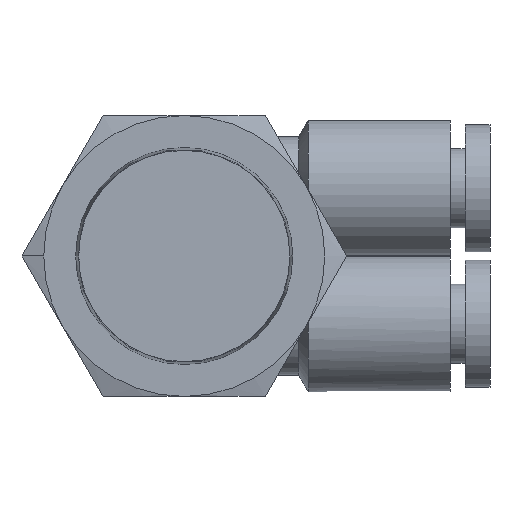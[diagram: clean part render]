
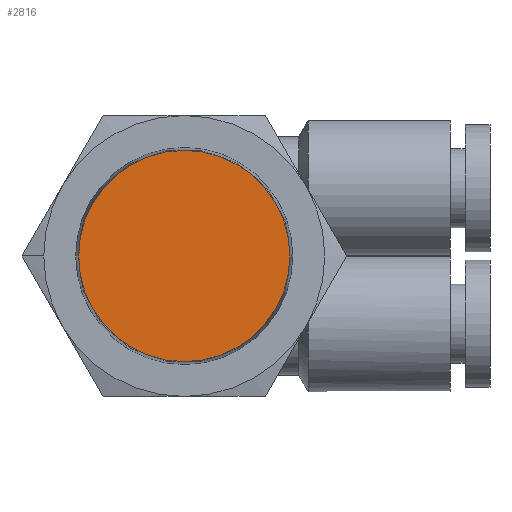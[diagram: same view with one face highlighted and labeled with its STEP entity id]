
A CAD part, front view. The second image highlights one B-rep face of the part: STEP entity #2816.
In plain terms, the highlighted planar face has unit normal (0, -1, 0).
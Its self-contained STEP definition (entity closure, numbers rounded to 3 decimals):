
#159 = DIRECTION ( 'NONE',  ( 1., 0., 0. ) ) ;
#214 = AXIS2_PLACEMENT_3D ( 'NONE', #1536, #3828, #159 ) ;
#606 = ORIENTED_EDGE ( 'NONE', *, *, #1869, .T. ) ;
#848 = CIRCLE ( 'NONE', #214, 6.391 ) ;
#935 = CARTESIAN_POINT ( 'NONE',  ( 6.391, -7.6, 0. ) ) ;
#1530 = VERTEX_POINT ( 'NONE', #3801 ) ;
#1536 = CARTESIAN_POINT ( 'NONE',  ( 0., -7.6, 0. ) ) ;
#1869 = EDGE_CURVE ( 'NONE', #1530, #4276, #848, .T. ) ;
#2279 = DIRECTION ( 'NONE',  ( 0., 1., 0. ) ) ;
#2353 = EDGE_LOOP ( 'NONE', ( #606, #3997 ) ) ;
#2634 = DIRECTION ( 'NONE',  ( 1., 0., 0. ) ) ;
#2653 = PLANE ( 'NONE',  #2745 ) ;
#2745 = AXIS2_PLACEMENT_3D ( 'NONE', #935, #2279, #2634 ) ;
#2753 = CIRCLE ( 'NONE', #2963, 6.391 ) ;
#2816 = ADVANCED_FACE ( 'NONE', ( #3944 ), #2653, .F. ) ;
#2963 = AXIS2_PLACEMENT_3D ( 'NONE', #3542, #3231, #4263 ) ;
#3231 = DIRECTION ( 'NONE',  ( 0., -1., 0. ) ) ;
#3432 = CARTESIAN_POINT ( 'NONE',  ( 6.391, -7.6, 0. ) ) ;
#3542 = CARTESIAN_POINT ( 'NONE',  ( 0., -7.6, 0. ) ) ;
#3801 = CARTESIAN_POINT ( 'NONE',  ( -6.391, -7.6, 0. ) ) ;
#3828 = DIRECTION ( 'NONE',  ( 0., -1., 0. ) ) ;
#3944 = FACE_OUTER_BOUND ( 'NONE', #2353, .T. ) ;
#3997 = ORIENTED_EDGE ( 'NONE', *, *, #4341, .T. ) ;
#4263 = DIRECTION ( 'NONE',  ( 1., 0., 0. ) ) ;
#4276 = VERTEX_POINT ( 'NONE', #3432 ) ;
#4341 = EDGE_CURVE ( 'NONE', #4276, #1530, #2753, .T. ) ;
